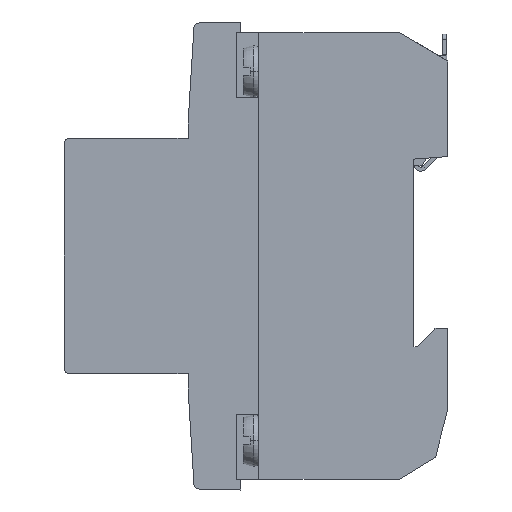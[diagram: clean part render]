
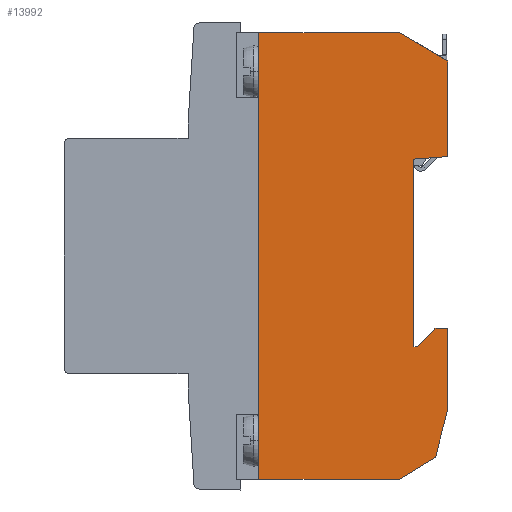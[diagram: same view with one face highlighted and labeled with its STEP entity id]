
A CAD part, left-side view. The second image highlights one B-rep face of the part: STEP entity #13992.
In plain terms, the highlighted planar face has unit normal (-1, 0, 0).
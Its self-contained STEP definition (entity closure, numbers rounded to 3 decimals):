
#371 = CARTESIAN_POINT ( 'NONE',  ( 0., 0., 43.25 ) ) ;
#434 = CARTESIAN_POINT ( 'NONE',  ( 0., 0., -43.25 ) ) ;
#435 = CARTESIAN_POINT ( 'NONE',  ( 0., 0., 43.25 ) ) ;
#443 = EDGE_CURVE ( 'NONE', #11575, #13408, #15884, .T. ) ;
#668 = VERTEX_POINT ( 'NONE', #4179 ) ;
#887 = ORIENTED_EDGE ( 'NONE', *, *, #10270, .F. ) ;
#1403 = CARTESIAN_POINT ( 'NONE',  ( 0., -30.7, -17.55 ) ) ;
#1441 = DIRECTION ( 'NONE',  ( 0., 0., -1. ) ) ;
#1489 = ORIENTED_EDGE ( 'NONE', *, *, #443, .F. ) ;
#1813 = ORIENTED_EDGE ( 'NONE', *, *, #13110, .F. ) ;
#1927 = CARTESIAN_POINT ( 'NONE',  ( 0., -30., 18.75 ) ) ;
#2034 = CARTESIAN_POINT ( 'NONE',  ( 0., -27.2, 43.25 ) ) ;
#2095 = LINE ( 'NONE', #20550, #4377 ) ;
#2356 = EDGE_CURVE ( 'NONE', #17276, #13731, #2095, .T. ) ;
#2486 = VECTOR ( 'NONE', #6414, 1000. ) ;
#2572 = ORIENTED_EDGE ( 'NONE', *, *, #19247, .F. ) ;
#2710 = CARTESIAN_POINT ( 'NONE',  ( 0., -34.1, -13.95 ) ) ;
#2900 = VECTOR ( 'NONE', #16910, 1000. ) ;
#3504 = CARTESIAN_POINT ( 'NONE',  ( 0., -30., -17.55 ) ) ;
#3579 = CARTESIAN_POINT ( 'NONE',  ( 0., 0., -43.25 ) ) ;
#4036 = ORIENTED_EDGE ( 'NONE', *, *, #12267, .F. ) ;
#4128 = VECTOR ( 'NONE', #1441, 1000. ) ;
#4179 = CARTESIAN_POINT ( 'NONE',  ( 0., -27.2, -43.25 ) ) ;
#4377 = VECTOR ( 'NONE', #12462, 1000. ) ;
#4409 = LINE ( 'NONE', #8012, #4128 ) ;
#4450 = EDGE_CURVE ( 'NONE', #668, #19869, #16944, .T. ) ;
#4999 = EDGE_CURVE ( 'NONE', #9274, #17276, #15915, .T. ) ;
#5182 = EDGE_CURVE ( 'NONE', #14168, #11575, #9302, .T. ) ;
#5264 = ORIENTED_EDGE ( 'NONE', *, *, #8725, .F. ) ;
#5682 = CARTESIAN_POINT ( 'NONE',  ( 0., -36.6, -13.95 ) ) ;
#5738 = VECTOR ( 'NONE', #6746, 1000. ) ;
#5739 = VERTEX_POINT ( 'NONE', #5682 ) ;
#6329 = ORIENTED_EDGE ( 'NONE', *, *, #20223, .F. ) ;
#6414 = DIRECTION ( 'NONE',  ( 0., -0.687, 0.727 ) ) ;
#6746 = DIRECTION ( 'NONE',  ( 0., 0., -1. ) ) ;
#6812 = DIRECTION ( 'NONE',  ( 0., 1., 0. ) ) ;
#7035 = DIRECTION ( 'NONE',  ( 0., 0., -1. ) ) ;
#7196 = LINE ( 'NONE', #18385, #2900 ) ;
#7268 = AXIS2_PLACEMENT_3D ( 'NONE', #20642, #18993, #17299 ) ;
#7324 = ORIENTED_EDGE ( 'NONE', *, *, #2356, .F. ) ;
#7923 = VERTEX_POINT ( 'NONE', #1403 ) ;
#8012 = CARTESIAN_POINT ( 'NONE',  ( 0., -36.6, -13.95 ) ) ;
#8024 = VECTOR ( 'NONE', #13722, 1000. ) ;
#8106 = CARTESIAN_POINT ( 'NONE',  ( 0., -30.7, -17.55 ) ) ;
#8696 = EDGE_CURVE ( 'NONE', #12611, #5739, #18043, .T. ) ;
#8725 = EDGE_CURVE ( 'NONE', #13408, #7923, #19553, .T. ) ;
#8807 = ORIENTED_EDGE ( 'NONE', *, *, #4999, .F. ) ;
#9076 = LINE ( 'NONE', #20672, #14423 ) ;
#9145 = PLANE ( 'NONE',  #7268 ) ;
#9274 = VERTEX_POINT ( 'NONE', #435 ) ;
#9302 = LINE ( 'NONE', #18586, #8024 ) ;
#9969 = CARTESIAN_POINT ( 'NONE',  ( 0., -30., 18.75 ) ) ;
#10093 = DIRECTION ( 'NONE',  ( 0., -1., 0. ) ) ;
#10226 = ORIENTED_EDGE ( 'NONE', *, *, #15745, .F. ) ;
#10270 = EDGE_CURVE ( 'NONE', #14401, #10663, #9076, .T. ) ;
#10292 = DIRECTION ( 'NONE',  ( 0., -1., 0. ) ) ;
#10325 = LINE ( 'NONE', #8106, #2486 ) ;
#10649 = VECTOR ( 'NONE', #10292, 1000. ) ;
#10663 = VERTEX_POINT ( 'NONE', #13560 ) ;
#10864 = LINE ( 'NONE', #371, #17222 ) ;
#10956 = FACE_OUTER_BOUND ( 'NONE', #12046, .T. ) ;
#11575 = VERTEX_POINT ( 'NONE', #9969 ) ;
#11998 = CARTESIAN_POINT ( 'NONE',  ( 0., -36.6, 37.75 ) ) ;
#12046 = EDGE_LOOP ( 'NONE', ( #7324, #8807, #10226, #19659, #1813, #887, #6329, #20774, #2572, #5264, #1489, #19766, #4036 ) ) ;
#12267 = EDGE_CURVE ( 'NONE', #13731, #14168, #18885, .T. ) ;
#12462 = DIRECTION ( 'NONE',  ( 0., -0.863, -0.505 ) ) ;
#12611 = VERTEX_POINT ( 'NONE', #2710 ) ;
#13110 = EDGE_CURVE ( 'NONE', #10663, #668, #7196, .T. ) ;
#13334 = VECTOR ( 'NONE', #7035, 1000. ) ;
#13408 = VERTEX_POINT ( 'NONE', #3504 ) ;
#13560 = CARTESIAN_POINT ( 'NONE',  ( 0., -34.2, -38.95 ) ) ;
#13658 = DIRECTION ( 'NONE',  ( 0., -1., 0. ) ) ;
#13722 = DIRECTION ( 'NONE',  ( 0., 0.997, -0.076 ) ) ;
#13731 = VERTEX_POINT ( 'NONE', #11998 ) ;
#13746 = VECTOR ( 'NONE', #10093, 1000. ) ;
#13992 = ADVANCED_FACE ( 'NONE', ( #10956 ), #9145, .T. ) ;
#14078 = DIRECTION ( 'NONE',  ( 0., 0.247, -0.969 ) ) ;
#14168 = VERTEX_POINT ( 'NONE', #17449 ) ;
#14401 = VERTEX_POINT ( 'NONE', #14811 ) ;
#14423 = VECTOR ( 'NONE', #14078, 1000. ) ;
#14811 = CARTESIAN_POINT ( 'NONE',  ( 0., -36.6, -29.55 ) ) ;
#15044 = DIRECTION ( 'NONE',  ( 0., 0., 1. ) ) ;
#15204 = CARTESIAN_POINT ( 'NONE',  ( 0., -36.6, 37.75 ) ) ;
#15745 = EDGE_CURVE ( 'NONE', #19869, #9274, #10864, .T. ) ;
#15884 = LINE ( 'NONE', #1927, #5738 ) ;
#15915 = LINE ( 'NONE', #2034, #16697 ) ;
#16194 = VECTOR ( 'NONE', #6812, 1000. ) ;
#16413 = CARTESIAN_POINT ( 'NONE',  ( 0., -34.1, -13.95 ) ) ;
#16697 = VECTOR ( 'NONE', #13658, 1000. ) ;
#16910 = DIRECTION ( 'NONE',  ( 0., 0.852, -0.523 ) ) ;
#16944 = LINE ( 'NONE', #434, #16194 ) ;
#17222 = VECTOR ( 'NONE', #15044, 1000. ) ;
#17276 = VERTEX_POINT ( 'NONE', #20483 ) ;
#17299 = DIRECTION ( 'NONE',  ( 0., 0., 1. ) ) ;
#17449 = CARTESIAN_POINT ( 'NONE',  ( 0., -36.6, 19.25 ) ) ;
#18043 = LINE ( 'NONE', #16413, #13746 ) ;
#18385 = CARTESIAN_POINT ( 'NONE',  ( 0., -34.2, -38.95 ) ) ;
#18586 = CARTESIAN_POINT ( 'NONE',  ( 0., -36.6, 19.25 ) ) ;
#18885 = LINE ( 'NONE', #15204, #13334 ) ;
#18993 = DIRECTION ( 'NONE',  ( -1., 0., 0. ) ) ;
#19247 = EDGE_CURVE ( 'NONE', #7923, #12611, #10325, .T. ) ;
#19553 = LINE ( 'NONE', #19945, #10649 ) ;
#19659 = ORIENTED_EDGE ( 'NONE', *, *, #4450, .F. ) ;
#19766 = ORIENTED_EDGE ( 'NONE', *, *, #5182, .F. ) ;
#19869 = VERTEX_POINT ( 'NONE', #3579 ) ;
#19945 = CARTESIAN_POINT ( 'NONE',  ( 0., -30., -17.55 ) ) ;
#20223 = EDGE_CURVE ( 'NONE', #5739, #14401, #4409, .T. ) ;
#20483 = CARTESIAN_POINT ( 'NONE',  ( 0., -27.2, 43.25 ) ) ;
#20550 = CARTESIAN_POINT ( 'NONE',  ( 0., -27.2, 43.25 ) ) ;
#20642 = CARTESIAN_POINT ( 'NONE',  ( 0., 0., 0. ) ) ;
#20672 = CARTESIAN_POINT ( 'NONE',  ( 0., -36.6, -29.55 ) ) ;
#20774 = ORIENTED_EDGE ( 'NONE', *, *, #8696, .F. ) ;
